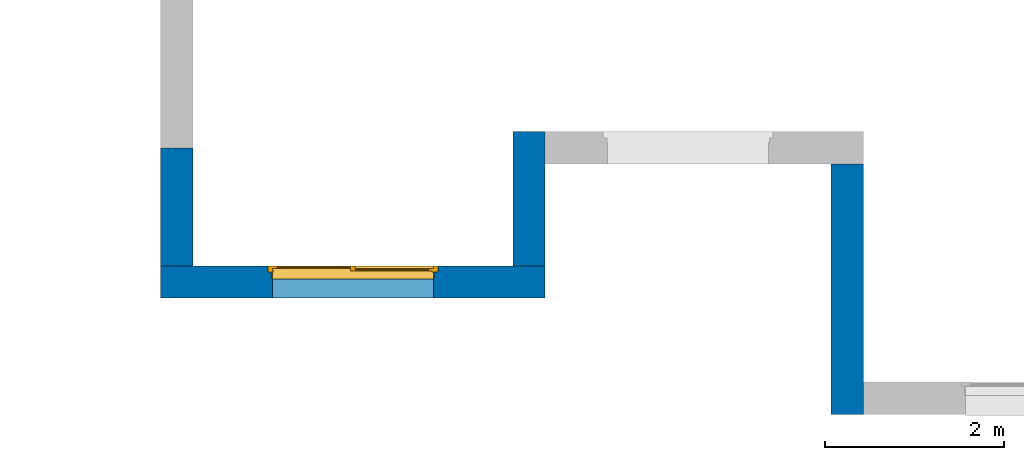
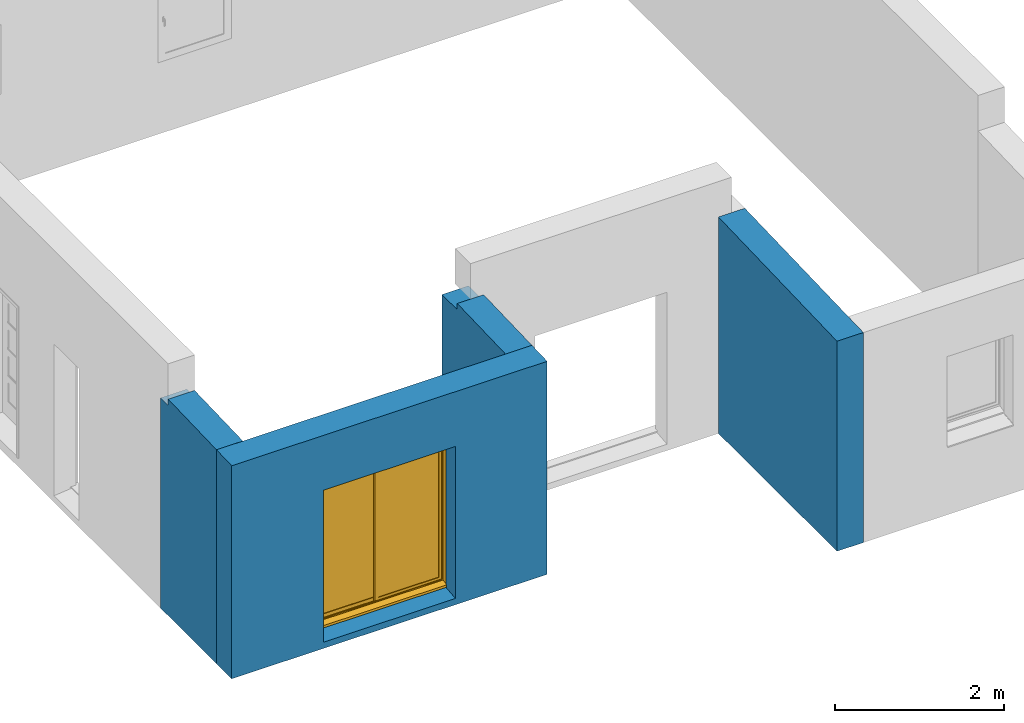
"""IFC2X3 building model written with IfcOpenShell, lengths in centimetres."""

from ifc_helpers import new_model, entity, si_unit, converted_unit, derived_unit, direction, frame, frame_2d, origin, place, context, subcontext, project, spatial, polyline, rectangle, extrude, clip, bounded_halfspace, faceted_brep, source, transform, mapped, material, material_list, layer, layer_set, layer_usage, type_object, type_shapes, element, fill, save


model = new_model("IFC2X3")

# Units and contexts
model_context = context("Model", 3, precision=0.001, world=origin(), true_north=direction((6.123031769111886e-17, 1.0)))
body_context = subcontext(model_context, "Body", "Model", "MODEL_VIEW")
ifc_project = project(units=[si_unit("LENGTHUNIT", "METRE", prefix="CENTI"), si_unit("AREAUNIT", "SQUARE_METRE"), si_unit("VOLUMEUNIT", "CUBIC_METRE"), converted_unit("PLANEANGLEUNIT", "DEGREE", entity("IfcRatioMeasure", 0.017453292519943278), si_unit("PLANEANGLEUNIT", "RADIAN"), dimensions=[0, 0, 0, 0, 0, 0, 0]), si_unit("MASSUNIT", "GRAM", prefix="KILO"), derived_unit("MASSDENSITYUNIT", [(si_unit("MASSUNIT", "GRAM", prefix="KILO"), 1), (si_unit("LENGTHUNIT", "METRE"), -3)]), derived_unit("MOMENTOFINERTIAUNIT", [(si_unit("LENGTHUNIT", "METRE"), 4)]), si_unit("TIMEUNIT", "SECOND"), si_unit("FREQUENCYUNIT", "HERTZ"), si_unit("THERMODYNAMICTEMPERATUREUNIT", "DEGREE_CELSIUS"), derived_unit("THERMALTRANSMITTANCEUNIT", [(si_unit("MASSUNIT", "GRAM", prefix="KILO"), 1), (si_unit("THERMODYNAMICTEMPERATUREUNIT", "KELVIN"), -1), (si_unit("TIMEUNIT", "SECOND"), -3)]), derived_unit("THERMALCONDUCTANCEUNIT", [(si_unit("MASSUNIT", "GRAM", prefix="KILO"), 1), (si_unit("LENGTHUNIT", "METRE"), 1), (si_unit("THERMODYNAMICTEMPERATUREUNIT", "KELVIN"), -1), (si_unit("TIMEUNIT", "SECOND"), -3)]), derived_unit("VOLUMETRICFLOWRATEUNIT", [(si_unit("LENGTHUNIT", "METRE"), 3), (si_unit("TIMEUNIT", "SECOND"), -1)]), derived_unit("MASSFLOWRATEUNIT", [(si_unit("MASSUNIT", "GRAM", prefix="KILO"), 1), (si_unit("TIMEUNIT", "SECOND"), -1)]), derived_unit("ROTATIONALFREQUENCYUNIT", [(si_unit("TIMEUNIT", "SECOND"), -1)]), si_unit("ELECTRICCURRENTUNIT", "AMPERE"), si_unit("ELECTRICVOLTAGEUNIT", "VOLT"), si_unit("POWERUNIT", "WATT"), si_unit("FORCEUNIT", "NEWTON", prefix="KILO"), si_unit("ILLUMINANCEUNIT", "LUX"), si_unit("LUMINOUSFLUXUNIT", "LUMEN"), si_unit("LUMINOUSINTENSITYUNIT", "CANDELA"), derived_unit("USERDEFINED", [(si_unit("MASSUNIT", "GRAM", prefix="KILO"), -1), (si_unit("LENGTHUNIT", "METRE"), -2), (si_unit("TIMEUNIT", "SECOND"), 3), (si_unit("LUMINOUSFLUXUNIT", "LUMEN"), 1)]), derived_unit("USERDEFINED", [(si_unit("MASSUNIT", "GRAM", prefix="KILO"), 1), (si_unit("LENGTHUNIT", "METRE"), 3), (si_unit("TIMEUNIT", "SECOND"), -3), (si_unit("ELECTRICCURRENTUNIT", "AMPERE"), -2)]), derived_unit("USERDEFINED", [(si_unit("LENGTHUNIT", "METRE"), 2), (si_unit("TIMEUNIT", "SECOND"), -2)]), derived_unit("SOUNDPOWERUNIT", [(si_unit("MASSUNIT", "GRAM", prefix="KILO"), 1), (si_unit("LENGTHUNIT", "METRE"), 2), (si_unit("TIMEUNIT", "SECOND"), -3)]), derived_unit("SOUNDPRESSUREUNIT", [(si_unit("MASSUNIT", "GRAM", prefix="KILO"), 1), (si_unit("LENGTHUNIT", "METRE"), -1), (si_unit("TIMEUNIT", "SECOND"), -2)]), derived_unit("LINEARVELOCITYUNIT", [(si_unit("LENGTHUNIT", "METRE"), 1), (si_unit("TIMEUNIT", "SECOND"), -1)]), si_unit("PRESSUREUNIT", "PASCAL"), derived_unit("USERDEFINED", [(si_unit("LENGTHUNIT", "METRE"), -2), (si_unit("MASSUNIT", "GRAM", prefix="KILO"), 1), (si_unit("TIMEUNIT", "SECOND"), -2)]), derived_unit("LINEARFORCEUNIT", [(si_unit("MASSUNIT", "GRAM", prefix="KILO"), 1), (si_unit("LENGTHUNIT", "METRE"), 1), (si_unit("TIMEUNIT", "SECOND"), -2), (si_unit("LENGTHUNIT", "METRE"), -1)]), derived_unit("PLANARFORCEUNIT", [(si_unit("MASSUNIT", "GRAM", prefix="KILO"), 1), (si_unit("LENGTHUNIT", "METRE"), 1), (si_unit("TIMEUNIT", "SECOND"), -2), (si_unit("LENGTHUNIT", "METRE"), -2)]), derived_unit("SPECIFICHEATCAPACITYUNIT", [(si_unit("LENGTHUNIT", "METRE"), 2), (si_unit("TIMEUNIT", "SECOND"), -2), (si_unit("THERMODYNAMICTEMPERATUREUNIT", "KELVIN"), -1)]), derived_unit("VAPORPERMEABILITYUNIT", [(si_unit("TIMEUNIT", "SECOND"), 1), (si_unit("LENGTHUNIT", "METRE"), -1)]), derived_unit("DYNAMICVISCOSITYUNIT", [(si_unit("MASSUNIT", "GRAM", prefix="KILO"), 1), (si_unit("LENGTHUNIT", "METRE"), -1), (si_unit("TIMEUNIT", "SECOND"), -1)]), derived_unit("THERMALEXPANSIONCOEFFICIENTUNIT", [(si_unit("THERMODYNAMICTEMPERATUREUNIT", "KELVIN"), -1)])], contexts=[model_context])

# Site, building, storey
site_placement = place(None, origin())
site = spatial("IfcSite", under=ifc_project, at=site_placement, Name="Default", CompositionType="ELEMENT")
building_placement = place(site_placement, origin())
building = spatial("IfcBuilding", under=site, at=building_placement, CompositionType="ELEMENT")
storey_1_placement = place(building_placement, frame((0.0, 0.0, -13.0)))
storey_1 = spatial("IfcBuildingStorey", under=building, at=storey_1_placement, Name="0_-0.13", CompositionType="ELEMENT", Elevation=-13.000000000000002)

# Wall, opening
ifc_material_1 = material(Name="Maçonnerie - Enduit")
ifc_layer_1 = layer(ifc_material_1, 2.0)
ifc_material_2 = material(Name="Maçonnerie - Béton")
ifc_layer_2 = layer(ifc_material_2, 20.0)
ifc_material_3 = material(Name="Mur par défaut")
ifc_layer_3 = layer(ifc_material_3, 14.0)
ifc_layer_set = layer_set([ifc_layer_1, ifc_layer_2, ifc_layer_3], Name="Mur de base:Mur extérieur 36cm")
ifc_layer_usage = layer_usage(ifc_layer_set, "AXIS2", "POSITIVE", -18.0)
wall_type = type_object("IfcWallType", Name="Mur de base:Mur extérieur 36cm", PredefinedType="STANDARD", material=ifc_layer_set)
wall_1_placement = place(storey_1_placement, frame((-722.0684437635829, -653.3533541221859, 0.0)))
wall_1 = element("IfcWallStandardCase", 1, at=wall_1_placement, inside=storey_1, type_object=wall_type, material=ifc_layer_usage, Name="Mur de base:Mur extérieur 36cm", ObjectType="Mur de base:Mur extérieur 36cm", context=body_context, shape_type="Clipping", body=[
    clip(extrude(rectangle(XDim=430.0000000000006, YDim=36.00000000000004, at=frame_2d((215.0000000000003, 0.0), x_axis=(-1.0, 0.0))), origin(), (0.0, 0.0, 1.0), 308.1944459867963), bounded_halfspace(frame((0.0, -18.0, 306.99444598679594), z_axis=(0.0, 0.033314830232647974, -0.999444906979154), x_axis=(-1.0, 0.0, 0.0)), True, frame((0.0, -18.0, 306.99444598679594)), polyline([(0.0, 0.0), (430.0, 0.0), (430.0, 36.0), (394.0, 36.0), (36.0, 36.0), (0.0, 36.0), (0.0, 0.0)]))),
])
opening_placement = place(wall_1_placement, frame((120.0, -50.0, 5.61416282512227)))
opening = element("IfcOpeningElement", 2, at=opening_placement, cuts=wall_1, Name="Mur de base:Mur extérieur 36cm", ObjectType="Opening", context=body_context, shape_type="Brep", body=[
    faceted_brep([(185.0, 56.0, 7.38583717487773), (185.0, 54.0, 7.38583717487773), (185.0, 54.0, 222.38583717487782), (185.0, 0.0, 222.38583717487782), (185.0, 0.0, 0.0), (185.0, 56.0, 5.885837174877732), (5.0, 100.0, 7.38583717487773), (5.0, 68.0, 7.38583717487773), (5.0, 68.0, 222.38583717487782), (5.0, 100.0, 222.38583717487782), (185.0, 100.0, 7.38583717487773), (185.0, 68.0, 7.38583717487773), (190.0, 68.0, 7.38583717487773), (190.0, 61.0, 7.38583717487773), (186.0, 61.0, 7.38583717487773), (186.0, 54.0, 7.38583717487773), (5.0, 56.0, 7.385837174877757), (5.0, 54.0, 7.38583717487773), (4.0, 54.0, 7.38583717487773), (4.0, 61.0, 7.38583717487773), (0.0, 61.0, 7.38583717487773), (0.0, 68.0, 7.38583717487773), (185.0, 100.0, 222.38583717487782), (5.0, 54.0, 222.38583717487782), (5.0, 0.0, 222.38583717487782), (5.0, 0.0, 0.0), (5.0, 56.0, 5.885837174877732), (190.0, 68.0, 227.38583717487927), (190.0, 61.0, 227.3858371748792), (0.0, 61.0, 227.38583717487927), (4.0, 61.0, 223.38583717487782), (186.0, 61.0, 223.38583717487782), (186.0, 54.0, 223.38583717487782), (4.0, 54.0, 223.38583717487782), (185.0, 68.0, 222.38583717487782), (0.0, 68.0, 227.38583717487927)], [[[0, 1, 2, 3, 4, 5]], [[6, 7, 8, 9]], [[10, 11, 12, 13, 14, 15, 1, 0, 16, 17, 18, 19, 20, 21, 7, 6]], [[10, 6, 9, 22]], [[3, 2, 23, 24]], [[3, 24, 25, 4]], [[4, 25, 26, 5]], [[5, 26, 16, 0]], [[12, 27, 28, 13]], [[13, 28, 29, 20, 19, 30, 31, 14]], [[14, 31, 32, 15]], [[15, 32, 33, 18, 17, 23, 2, 1]], [[11, 34, 8, 7, 21, 35, 27, 12]], [[27, 35, 29, 28]], [[30, 33, 32, 31]], [[29, 35, 21, 20]], [[19, 18, 33, 30]], [[9, 8, 34, 22]], [[24, 23, 17, 16, 26, 25]], [[22, 34, 11, 10]]]),
])

# Storey
storey_2_placement = place(building_placement, origin())
storey_2 = spatial("IfcBuildingStorey", under=building, at=storey_2_placement, Name="1_Rez-de-chaussée", CompositionType="ELEMENT", Elevation=0.0)

# Window
ifc_material_4 = material(Name="Fenêtre - Vitrage")
ifc_material_5 = material(Name="Fenêtre - Cadre")
ifc_material_list = material_list([ifc_material_4, ifc_material_5])
window_style = type_object("IfcWindowStyle", Name="PF 2 vantaux coulissants:180 x 215 cm 2", ConstructionType="NOTDEFINED", OperationType="DOUBLE_PANEL_VERTICAL", ParameterTakesPrecedence=False, Sizeable=False, material=ifc_material_list)
shared_shape = source(origin(), body_context, "Body", "Brep", [
    faceted_brep([(92.50000000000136, 37.100000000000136, 217.3858371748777), (92.50000000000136, 37.100000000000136, 17.38583717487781), (10.0, 37.10000000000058, 17.38583717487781), (10.0, 37.10000000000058, 217.3858371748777), (92.50000000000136, 35.90000000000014, 217.3858371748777), (92.50000000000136, 35.90000000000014, 17.38583717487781), (10.0, 35.90000000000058, 17.38583717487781), (10.0, 35.90000000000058, 217.3858371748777)], [[[0, 1, 2, 3]], [[1, 0, 4, 5]], [[2, 1, 5, 6]], [[3, 2, 6, 7]], [[4, 7, 6, 5]], [[0, 3, 7, 4]]]),
    faceted_brep([(97.50000000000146, 38.0, 222.38583717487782), (97.50000000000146, 35.0, 222.38583717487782), (97.50000000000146, 35.0, 12.385837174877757), (97.50000000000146, 38.0, 12.38583717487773), (5.0, 35.0, 12.385837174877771), (5.0, 38.0, 12.385837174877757), (5.0, 35.0, 222.38583717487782), (10.0, 35.0, 17.385837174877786), (10.0, 35.0, 217.38583717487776), (92.5000000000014, 35.0, 217.38583717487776), (92.50000000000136, 35.0, 17.38583717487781), (5.0, 38.0, 222.38583717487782), (92.5000000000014, 38.0, 17.385837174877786), (92.50000000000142, 38.0, 217.38583717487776), (10.0, 38.0, 217.38583717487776), (10.0, 38.0, 17.38583717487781)], [[[0, 1, 2, 3]], [[3, 2, 4, 5]], [[2, 1, 6, 4], [7, 8, 9, 10]], [[5, 4, 6, 11]], [[5, 11, 0, 3], [12, 13, 14, 15]], [[9, 13, 12, 10]], [[10, 12, 15, 7]], [[7, 15, 14, 8]], [[11, 6, 1, 0]], [[8, 14, 13, 9]]]),
    faceted_brep([(97.50000000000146, 34.10000000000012, 17.385837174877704), (97.50000000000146, 34.10000000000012, 217.38583717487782), (180.0, 34.09999999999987, 217.38583717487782), (180.0, 34.09999999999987, 17.385837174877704), (97.50000000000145, 32.90000000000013, 17.385837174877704), (97.50000000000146, 32.90000000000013, 217.38583717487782), (180.0, 32.89999999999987, 217.38583717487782), (180.0, 32.89999999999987, 17.385837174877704)], [[[0, 1, 2, 3]], [[1, 0, 4, 5]], [[3, 2, 6, 7]], [[0, 3, 7, 4]], [[4, 7, 6, 5]], [[2, 1, 5, 6]]]),
    faceted_brep([(97.50000000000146, 35.0, 217.38583717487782), (97.50000000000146, 32.0, 217.38583717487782), (97.50000000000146, 32.0, 17.385837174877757), (97.50000000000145, 35.0, 17.385837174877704), (180.0, 32.0, 17.385837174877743), (180.0, 35.0, 17.385837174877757), (180.0, 32.0, 217.38583717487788), (185.0, 32.0, 12.385837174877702), (185.0, 32.0, 222.38583717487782), (92.50000000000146, 32.0, 222.38583717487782), (92.50000000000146, 32.0, 12.385837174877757), (180.0, 35.0, 217.38583717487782), (92.50000000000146, 35.0, 12.38583717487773), (92.50000000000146, 35.0, 222.38583717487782), (185.0, 35.0, 222.38583717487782), (185.0, 35.0, 12.385837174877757)], [[[0, 1, 2, 3]], [[3, 2, 4, 5]], [[2, 1, 6, 4], [7, 8, 9, 10]], [[5, 4, 6, 11]], [[5, 11, 0, 3], [12, 13, 14, 15]], [[9, 13, 12, 10]], [[10, 12, 15, 7]], [[7, 15, 14, 8]], [[11, 6, 1, 0]], [[8, 14, 13, 9]]], outer=[[True], [True], [False, True], [True], [False, True], [True], [True], [True], [True], [True]]),
    faceted_brep([(0.0, 32.0, 7.38583717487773), (0.0, 39.0, 7.38583717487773), (5.0, 39.0, 7.38583717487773), (5.0, 46.0, 7.38583717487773), (185.0, 46.0, 7.385837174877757), (185.0, 39.0, 7.38583717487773), (190.0, 39.0, 7.38583717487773), (190.0, 32.0, 7.38583717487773), (0.0, 32.0, 227.38583717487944), (0.0, 39.0, 227.38583717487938), (190.0, 39.0, 227.38583717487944), (185.0, 39.0, 12.395248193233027), (5.0, 39.0, 12.395248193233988), (6.500000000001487, 39.0, 220.8858371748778), (6.500000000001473, 39.0, 13.885837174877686), (183.50000000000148, 39.0, 13.885837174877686), (183.50000000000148, 39.0, 220.88583717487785), (5.0, 47.0, 10.25165465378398), (5.0, 47.0, 6.885837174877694), (5.0, 46.0, 6.885837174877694), (185.0, 46.0, 6.885837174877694), (185.0, 47.0, 6.885837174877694), (185.0, 47.0, 10.25165465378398), (190.0, 32.0, 227.38583717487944), (185.0, 32.0, 222.38583717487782), (185.0, 32.0, 12.38583717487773), (5.0, 32.0, 12.385837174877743), (5.0, 32.0, 222.38583717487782), (6.500000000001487, 38.0, 220.8858371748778), (6.500000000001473, 38.0, 13.885837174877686), (183.50000000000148, 38.0, 13.885837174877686), (183.50000000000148, 38.0, 220.88583717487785), (185.0, 38.0, 222.38583717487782), (5.0, 38.0, 222.38583717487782), (5.0, 38.0, 12.38583717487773), (185.0, 38.0, 12.38583717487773)], [[[0, 1, 2, 3, 4, 5, 6, 7]], [[1, 0, 8, 9]], [[1, 9, 10, 6, 5, 11, 12, 2], [13, 14, 15, 16]], [[12, 17, 18, 19, 3, 2]], [[3, 19, 20, 4]], [[4, 20, 21, 22, 11, 5]], [[6, 10, 23, 7]], [[0, 7, 23, 8], [24, 25, 26, 27]], [[13, 28, 29, 14]], [[29, 30, 15, 14]], [[31, 16, 15, 30]], [[17, 12, 11, 22]], [[28, 31, 30, 29], [32, 33, 34, 35]], [[34, 33, 27, 26]], [[26, 25, 35, 34]], [[24, 32, 35, 25]], [[18, 17, 22, 21]], [[19, 18, 21, 20]], [[13, 16, 31, 28]], [[10, 9, 8, 23]], [[33, 32, 24, 27]]], outer=[[True], [True], [True, False], [True], [True], [True], [True], [True, False], [True], [True], [True], [True], [False, True], [True], [True], [True], [True], [True], [True], [True], [True]]),
    faceted_brep([(5.0, 46.0, 7.38583717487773), (5.0, 39.0, 7.38583717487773), (4.0, 39.0, 7.38583717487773), (4.0, 46.0, 7.38583717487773), (5.0, 46.0, 222.38583717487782), (5.0, 39.0, 222.38583717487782), (185.0, 39.0, 222.38583717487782), (185.0, 39.0, 7.385837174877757), (186.0, 39.0, 7.38583717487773), (186.0, 39.0, 223.38583717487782), (4.0, 39.0, 223.38583717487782), (4.0, 46.0, 223.38583717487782), (186.0, 46.0, 223.38583717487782), (186.0, 46.0, 7.385837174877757), (185.0, 46.0, 7.38583717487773), (185.0, 46.0, 222.38583717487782)], [[[0, 1, 2, 3]], [[1, 0, 4, 5]], [[2, 1, 5, 6, 7, 8, 9, 10]], [[3, 2, 10, 11]], [[0, 3, 11, 12, 13, 14, 15, 4]], [[6, 15, 14, 7]], [[14, 13, 8, 7]], [[12, 9, 8, 13]], [[5, 4, 15, 6]], [[11, 10, 9, 12]]]),
])
type_shapes(window_style, [shared_shape])
window_placement = place(opening_placement, frame((190.0, 100.0, 0.0), z_axis=(0.0, 0.0, 1.0), x_axis=(-1.0, 0.0, 0.0)))
window = element("IfcWindow", 3, at=window_placement, inside=storey_2, type_object=window_style, material=ifc_material_list, Name="PF 2 vantaux coulissants:180 x 215 cm 2", ObjectType="PF 2 vantaux coulissants:180 x 215 cm 2", OverallHeight=224.0225016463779, OverallWidth=190.00000000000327, context=body_context, shape_type="MappedRepresentation", body=[
    mapped(shared_shape, transform((0.0, 0.0, 0.0), scale=1.0)),
])

fill(opening, window)

# Walls
wall_2_placement = place(storey_1_placement, frame((-310.0684437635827, -635.3533541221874, 0.0), z_axis=(0.0, 0.0, 1.0), x_axis=(0.0, 1.0, 0.0)))
element("IfcWallStandardCase", 4, at=wall_2_placement, inside=storey_1, type_object=wall_type, material=ifc_layer_usage, Name="Mur de base:Mur extérieur 36cm", ObjectType="Mur de base:Mur extérieur 36cm", context=body_context, shape_type="Clipping", body=[
    clip(clip(extrude(rectangle(XDim=150.00000000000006, YDim=36.00000000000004, at=frame_2d((75.00000000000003, 0.0), x_axis=(-1.0, 0.0))), origin(), (0.0, 0.0, 1.0), 311.99444598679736), bounded_halfspace(frame((0.0, -18.0, 308.19444598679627), z_axis=(0.033314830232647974, 0.0, -0.999444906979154), x_axis=(0.0, 1.0, 0.0)), True, frame((0.0, -18.0, 308.19444598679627)), polyline([(0.0, 0.0), (114.0, 0.0), (114.0, 36.0), (0.0, 36.0), (0.0, 0.0)]))), bounded_halfspace(frame((114.0, -18.0, 303.0), z_axis=(0.0, 0.0, 1.0), x_axis=(0.0, 1.0, 0.0)), False, frame((114.0, -18.0, 303.0)), polyline([(0.0, 0.0), (36.0, 0.0), (36.0, 36.0), (0.0, 36.0), (0.0, 0.0)]))),
])
wall_3_placement = place(storey_1_placement, frame((45.93155623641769, -521.3533541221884, 0.0), z_axis=(0.0, 0.0, 1.0), x_axis=(0.0, -1.0, 0.0)))
element("IfcWallStandardCase", 5, at=wall_3_placement, inside=storey_1, type_object=wall_type, material=ifc_layer_usage, Name="Mur de base:Mur extérieur 36cm", ObjectType="Mur de base:Mur extérieur 36cm", context=body_context, shape_type="Clipping", body=[
    clip(extrude(rectangle(XDim=280.0, YDim=35.99999999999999, at=frame_2d((140.0, -1.7763568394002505e-15), x_axis=(-1.0, 0.0))), origin(), (0.0, 0.0, 1.0), 311.99444598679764), bounded_halfspace(frame((0.0, -18.0, 311.99444598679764), z_axis=(-0.03331483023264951, 0.0, -0.9994449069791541), x_axis=(0.0, -1.0, 0.0)), True, frame((0.0, -18.0, 311.99444598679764)), polyline([(0.0, 0.0), (280.0, 0.0), (280.0, 36.0), (244.0, 36.0), (0.0, 36.0), (0.0, 0.0)]))),
])
wall_4_placement = place(storey_1_placement, frame((-704.0684437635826, -503.3533541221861, 0.0), z_axis=(0.0, 0.0, 1.0), x_axis=(0.0, -1.0, 0.0)))
element("IfcWallStandardCase", 6, at=wall_4_placement, inside=storey_1, type_object=wall_type, material=ifc_layer_usage, Name="Mur de base:Mur extérieur 36cm", ObjectType="Mur de base:Mur extérieur 36cm", context=body_context, shape_type="Clipping", body=[
    clip(clip(extrude(rectangle(XDim=131.99999999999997, YDim=36.00000000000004, at=frame_2d((65.99999999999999, 4.085620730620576e-14), x_axis=(-1.0, 0.0))), origin(), (0.0, 0.0, 1.0), 311.99444598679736), bounded_halfspace(frame((18.0, -18.0, 311.99444598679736), z_axis=(-0.033314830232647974, 0.0, -0.999444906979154), x_axis=(0.0, -1.0, 0.0)), True, frame((18.0, -18.0, 311.99444598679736)), polyline([(0.0, 0.0), (114.0, 0.0), (114.0, 36.0), (0.0, 36.0), (0.0, 0.0)]))), bounded_halfspace(frame((0.0, -18.0, 303.0), z_axis=(0.0, 0.0, 1.0), x_axis=(0.0, 1.0, 0.0)), False, frame((0.0, -18.0, 303.0)), polyline([(0.0, 0.0), (18.0, 0.0), (18.0, 36.0), (0.0, 36.0), (0.0, 0.0)]))),
])

save(model, "model.ifc")
